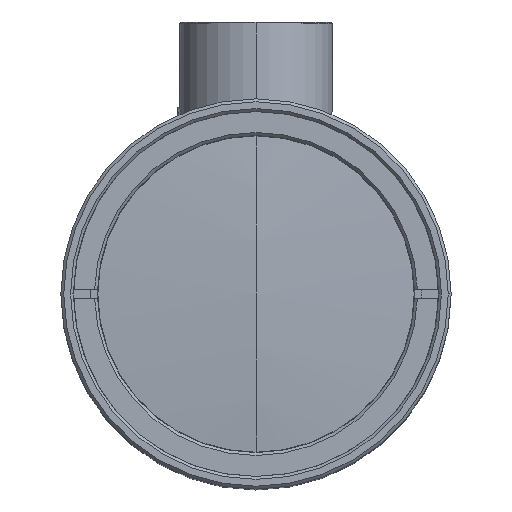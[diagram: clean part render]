
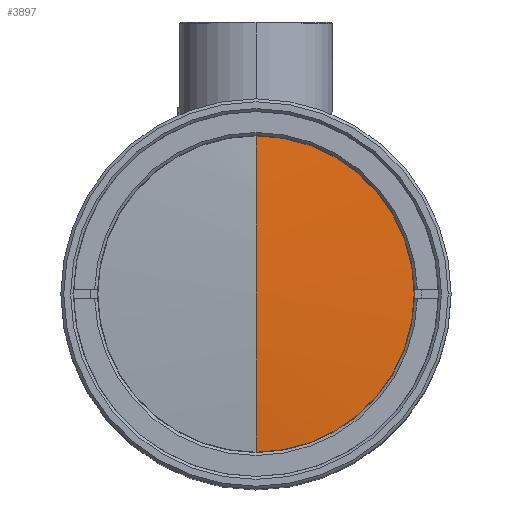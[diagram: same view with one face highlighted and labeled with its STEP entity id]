
A CAD part, top view. The second image highlights one B-rep face of the part: STEP entity #3897.
In plain terms, the highlighted spherical face has radius 167 mm.
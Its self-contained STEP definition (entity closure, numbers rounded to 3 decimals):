
#192 = AXIS2_PLACEMENT_3D ( 'NONE', #1131, #1778, #6921 ) ;
#253 = VERTEX_POINT ( 'NONE', #3079 ) ;
#342 = EDGE_CURVE ( 'NONE', #253, #7349, #2075, .T. ) ;
#712 = EDGE_CURVE ( 'NONE', #2140, #7349, #1248, .T. ) ;
#716 = EDGE_CURVE ( 'NONE', #253, #1308, #8311, .T. ) ;
#782 = AXIS2_PLACEMENT_3D ( 'NONE', #7173, #2705, #5950 ) ;
#814 = ORIENTED_EDGE ( 'NONE', *, *, #342, .T. ) ;
#1111 = SPHERICAL_SURFACE ( 'NONE', #3433, 167. ) ;
#1131 = CARTESIAN_POINT ( 'NONE',  ( 0., 0., 74.011 ) ) ;
#1248 = CIRCLE ( 'NONE', #782, 16.212 ) ;
#1308 = VERTEX_POINT ( 'NONE', #4610 ) ;
#1355 = DIRECTION ( 'NONE',  ( 1., 0., 0. ) ) ;
#1778 = DIRECTION ( 'NONE',  ( 0., 0., -1. ) ) ;
#1891 = CARTESIAN_POINT ( 'NONE',  ( 0., -16.212, 74.011 ) ) ;
#2075 = CIRCLE ( 'NONE', #6589, 167. ) ;
#2140 = VERTEX_POINT ( 'NONE', #4673 ) ;
#2609 = DIRECTION ( 'NONE',  ( 0., 0., 1. ) ) ;
#2636 = DIRECTION ( 'NONE',  ( -1., 0., 0. ) ) ;
#2705 = DIRECTION ( 'NONE',  ( 0., 0., -1. ) ) ;
#2950 = FACE_OUTER_BOUND ( 'NONE', #3373, .T. ) ;
#2965 = ORIENTED_EDGE ( 'NONE', *, *, #4256, .F. ) ;
#3079 = CARTESIAN_POINT ( 'NONE',  ( 0., 0., 74.8 ) ) ;
#3149 = ORIENTED_EDGE ( 'NONE', *, *, #712, .F. ) ;
#3237 = CARTESIAN_POINT ( 'NONE',  ( 0., 0., -92.2 ) ) ;
#3373 = EDGE_LOOP ( 'NONE', ( #6340, #814, #3149, #2965 ) ) ;
#3433 = AXIS2_PLACEMENT_3D ( 'NONE', #8465, #7822, #6568 ) ;
#3897 = ADVANCED_FACE ( 'NONE', ( #2950 ), #1111, .T. ) ;
#3940 = CARTESIAN_POINT ( 'NONE',  ( 0., 0., -92.2 ) ) ;
#4256 = EDGE_CURVE ( 'NONE', #1308, #2140, #6438, .T. ) ;
#4610 = CARTESIAN_POINT ( 'NONE',  ( 0., 16.212, 74.011 ) ) ;
#4673 = CARTESIAN_POINT ( 'NONE',  ( 16.212, 0., 74.011 ) ) ;
#5179 = DIRECTION ( 'NONE',  ( 0., 1., 0. ) ) ;
#5950 = DIRECTION ( 'NONE',  ( -1., 0., 0. ) ) ;
#6019 = AXIS2_PLACEMENT_3D ( 'NONE', #3237, #2636, #2609 ) ;
#6340 = ORIENTED_EDGE ( 'NONE', *, *, #716, .F. ) ;
#6438 = CIRCLE ( 'NONE', #192, 16.212 ) ;
#6568 = DIRECTION ( 'NONE',  ( 0., 1., 0. ) ) ;
#6589 = AXIS2_PLACEMENT_3D ( 'NONE', #3940, #1355, #5179 ) ;
#6921 = DIRECTION ( 'NONE',  ( -1., 0., 0. ) ) ;
#7173 = CARTESIAN_POINT ( 'NONE',  ( 0., 0., 74.011 ) ) ;
#7349 = VERTEX_POINT ( 'NONE', #1891 ) ;
#7822 = DIRECTION ( 'NONE',  ( 1., 0., 0. ) ) ;
#8311 = CIRCLE ( 'NONE', #6019, 167. ) ;
#8465 = CARTESIAN_POINT ( 'NONE',  ( 0., 0., -92.2 ) ) ;
